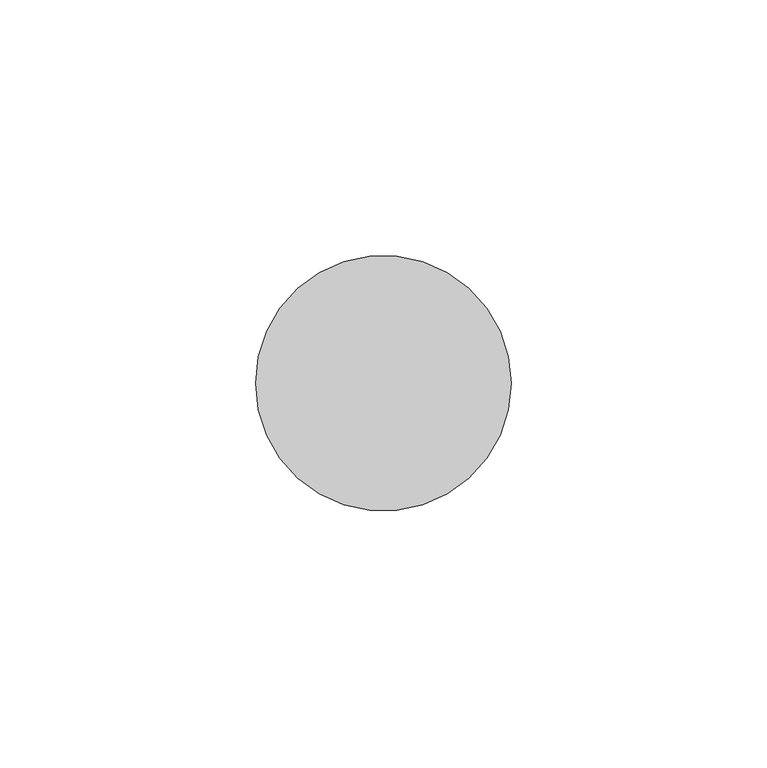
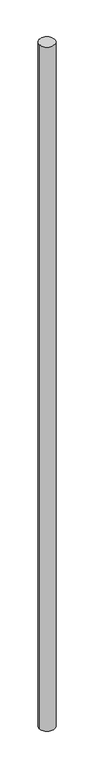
"""IFC4 building model written with IfcOpenShell, lengths in millimetres: member geometry, 圓形豎框 : 25mm 半徑."""

from ifc_helpers import new_model, si_unit, point, frame, origin, origin_2d, place, context, project, spatial, circle_curve, trimmed, segment, composite_curve, outline, extrude, source, transform, mapped, element, save


def member_f8dc95a5(model_context):
    return source(origin(), model_context, "Body", "SweptSolid", [
        extrude(outline(composite_curve([segment(trimmed(circle_curve(origin_2d(), 25.0), [point((25.0, 0.0))], [point((-25.0, 0.0))], False, "CARTESIAN"), True, "CONTINUOUS"), segment(trimmed(circle_curve(origin_2d(), 25.0), [point((-25.0, 0.0))], [point((25.0, 0.0))], False, "CARTESIAN"), True, "CONTINUOUS")], self_intersect=False)), frame((0.0, 0.0, -2319.909643), z_axis=(0.0, 0.0, 1.0), x_axis=(1.0, 0.0, 0.0)), (0.0, 0.0, 1.0), 2319.909643),
    ])


if __name__ == "__main__":
    model = new_model("IFC4")
    model_context = context("Model", 3, world=origin())
    ifc_project = project(units=[si_unit("LENGTHUNIT", "METRE", prefix="MILLI")], contexts=[model_context])
    site = spatial("IfcSite", under=ifc_project)
    building = spatial("IfcBuilding", under=site)
    placement = place(None, origin())
    member_shape = member_f8dc95a5(model_context)
    element("IfcMember", 1, ObjectType="圓形豎框 : 25mm 半徑", at=placement, inside=building, context=model_context, shape_type="MappedRepresentation", body=[
        mapped(member_shape, transform((0.0, 0.0, 0.0), x_axis=(1.0, 0.0, 0.0), y_axis=(0.0, 1.0, 0.0), z_axis=(0.0, 0.0, 1.0))),
    ])
    save(model, "model.ifc")
